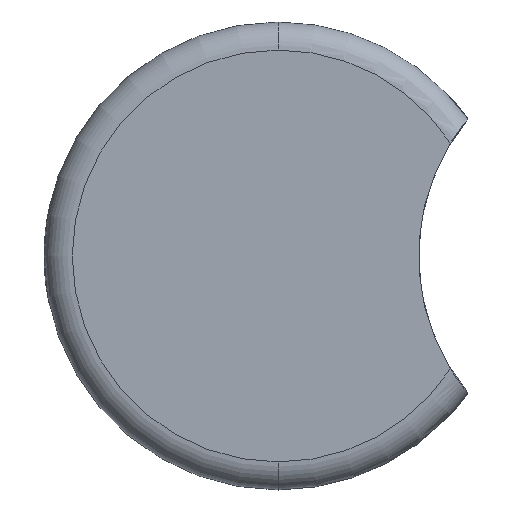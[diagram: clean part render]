
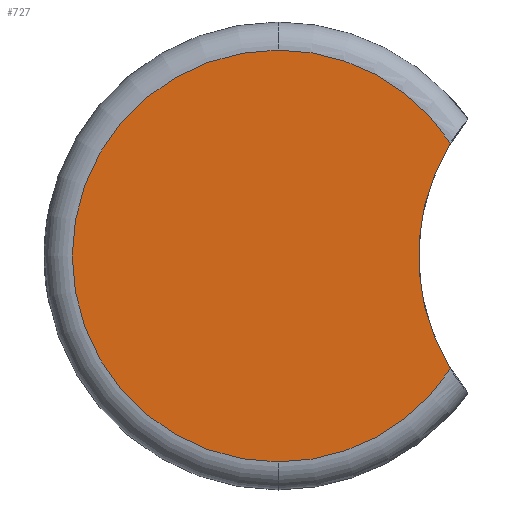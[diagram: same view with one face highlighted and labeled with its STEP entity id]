
A CAD part, front view. The second image highlights one B-rep face of the part: STEP entity #727.
In plain terms, the highlighted planar face has unit normal (0, -1, 0).
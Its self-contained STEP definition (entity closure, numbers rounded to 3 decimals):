
#495=CARTESIAN_POINT('Vertex',(0.,0.,-22.)) ;
#498=CARTESIAN_POINT('Axis2P3D Location',(0.,0.,0.)) ;
#502=CARTESIAN_POINT('Vertex',(0.,0.,22.)) ;
#522=CARTESIAN_POINT('Axis2P3D Location',(0.,0.,0.)) ;
#526=CARTESIAN_POINT('Vertex',(18.408,0.,12.048)) ;
#554=CARTESIAN_POINT('Axis2P3D Location',(38.,0.,0.)) ;
#558=CARTESIAN_POINT('Vertex',(18.408,0.,-12.048)) ;
#704=CARTESIAN_POINT('Axis2P3D Location',(0.,0.,0.)) ;
#716=CARTESIAN_POINT('Axis2P3D Location',(0.,0.,0.)) ;
#499=DIRECTION('Axis2P3D Direction',(0.,1.,0.)) ;
#523=DIRECTION('Axis2P3D Direction',(-0.,1.,0.)) ;
#555=DIRECTION('Axis2P3D Direction',(0.,1.,0.)) ;
#705=DIRECTION('Axis2P3D Direction',(-0.,1.,0.)) ;
#717=DIRECTION('Axis2P3D Direction',(-0.,1.,0.)) ;
#718=DIRECTION('Axis2P3D XDirection',(0.,0.,1.)) ;
#500=AXIS2_PLACEMENT_3D('Circle Axis2P3D',#498,#499,$) ;
#524=AXIS2_PLACEMENT_3D('Circle Axis2P3D',#522,#523,$) ;
#556=AXIS2_PLACEMENT_3D('Circle Axis2P3D',#554,#555,$) ;
#706=AXIS2_PLACEMENT_3D('Circle Axis2P3D',#704,#705,$) ;
#719=AXIS2_PLACEMENT_3D('Plane Axis2P3D',#716,#717,#718) ;
#722=ORIENTED_EDGE('',*,*,#528,.F.) ;
#723=ORIENTED_EDGE('',*,*,#504,.F.) ;
#724=ORIENTED_EDGE('',*,*,#708,.F.) ;
#725=ORIENTED_EDGE('',*,*,#560,.T.) ;
#727=ADVANCED_FACE('A518-3',(#726),#720,.F.) ;
#501=CIRCLE('generated circle',#500,22.) ;
#525=CIRCLE('generated circle',#524,22.) ;
#557=CIRCLE('generated circle',#556,23.) ;
#707=CIRCLE('generated circle',#706,22.) ;
#504=EDGE_CURVE('',#496,#503,#501,.T.) ;
#528=EDGE_CURVE('',#503,#527,#525,.T.) ;
#560=EDGE_CURVE('',#559,#527,#557,.T.) ;
#708=EDGE_CURVE('',#559,#496,#707,.T.) ;
#721=EDGE_LOOP('',(#722,#723,#724,#725)) ;
#726=FACE_OUTER_BOUND('',#721,.T.) ;
#720=PLANE('Plane',#719) ;
#496=VERTEX_POINT('',#495) ;
#503=VERTEX_POINT('',#502) ;
#527=VERTEX_POINT('',#526) ;
#559=VERTEX_POINT('',#558) ;
